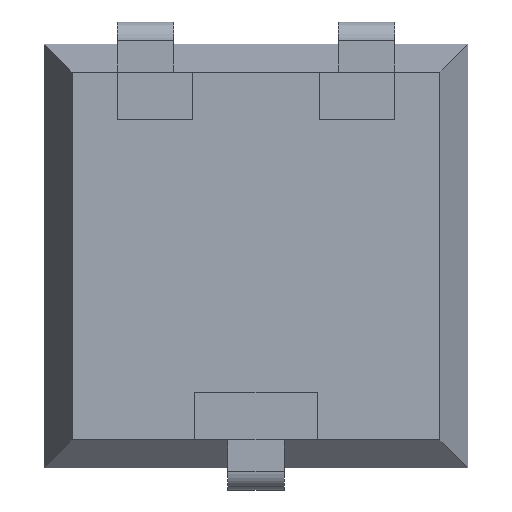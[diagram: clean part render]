
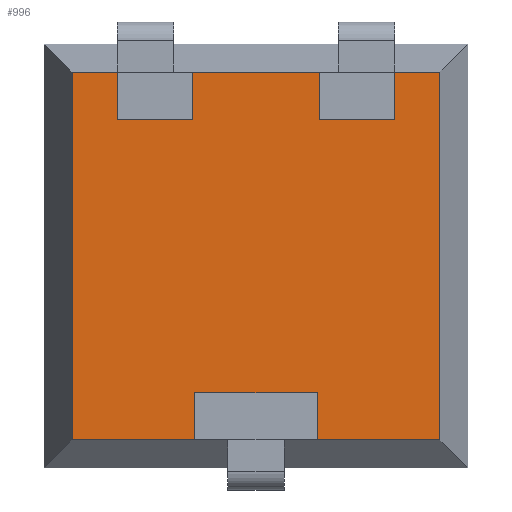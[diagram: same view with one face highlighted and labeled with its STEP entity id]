
A CAD part, front view. The second image highlights one B-rep face of the part: STEP entity #996.
In plain terms, the highlighted planar face has unit normal (0, -1, 0).
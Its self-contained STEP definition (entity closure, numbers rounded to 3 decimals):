
#54 = EDGE_CURVE ( 'NONE', #2265, #3279, #2867, .T. ) ;
#109 = CARTESIAN_POINT ( 'NONE',  ( -0.65, 0., -1.453 ) ) ;
#119 = CARTESIAN_POINT ( 'NONE',  ( 1.475, 0., 0. ) ) ;
#126 = CARTESIAN_POINT ( 'NONE',  ( -0.675, 0., 1.453 ) ) ;
#161 = VECTOR ( 'NONE', #973, 1000. ) ;
#196 = LINE ( 'NONE', #688, #854 ) ;
#263 = DIRECTION ( 'NONE',  ( 1., 0., 0. ) ) ;
#346 = LINE ( 'NONE', #1311, #1874 ) ;
#376 = VECTOR ( 'NONE', #584, 1000. ) ;
#387 = ORIENTED_EDGE ( 'NONE', *, *, #460, .T. ) ;
#460 = EDGE_CURVE ( 'NONE', #3146, #3234, #2729, .T. ) ;
#472 = VERTEX_POINT ( 'NONE', #1737 ) ;
#569 = PLANE ( 'NONE',  #2424 ) ;
#570 = VERTEX_POINT ( 'NONE', #1877 ) ;
#584 = DIRECTION ( 'NONE',  ( 0., 0., -1. ) ) ;
#605 = CARTESIAN_POINT ( 'NONE',  ( 1.953, 0., -1.953 ) ) ;
#632 = LINE ( 'NONE', #2179, #3215 ) ;
#688 = CARTESIAN_POINT ( 'NONE',  ( 0., 0., -1.953 ) ) ;
#708 = VECTOR ( 'NONE', #2224, 1000. ) ;
#727 = CARTESIAN_POINT ( 'NONE',  ( -1.953, 0., 1.953 ) ) ;
#728 = CARTESIAN_POINT ( 'NONE',  ( -1.475, 0., 0. ) ) ;
#779 = ORIENTED_EDGE ( 'NONE', *, *, #2188, .F. ) ;
#817 = VERTEX_POINT ( 'NONE', #2045 ) ;
#828 = ORIENTED_EDGE ( 'NONE', *, *, #1702, .F. ) ;
#832 = CARTESIAN_POINT ( 'NONE',  ( -1.953, 0., 0. ) ) ;
#854 = VECTOR ( 'NONE', #2675, 1000. ) ;
#908 = VECTOR ( 'NONE', #263, 1000. ) ;
#919 = VERTEX_POINT ( 'NONE', #109 ) ;
#950 = ORIENTED_EDGE ( 'NONE', *, *, #3086, .F. ) ;
#954 = VECTOR ( 'NONE', #1249, 1000. ) ;
#958 = LINE ( 'NONE', #119, #161 ) ;
#973 = DIRECTION ( 'NONE',  ( 0., 0., 1. ) ) ;
#985 = DIRECTION ( 'NONE',  ( -1., 0., 0. ) ) ;
#996 = ADVANCED_FACE ( 'NONE', ( #1805 ), #569, .F. ) ;
#1001 = CARTESIAN_POINT ( 'NONE',  ( -0.675, 0., 0. ) ) ;
#1062 = DIRECTION ( 'NONE',  ( -1., 0., 0. ) ) ;
#1069 = CARTESIAN_POINT ( 'NONE',  ( 1.475, 0., 1.453 ) ) ;
#1143 = EDGE_CURVE ( 'NONE', #817, #2336, #2376, .T. ) ;
#1220 = ORIENTED_EDGE ( 'NONE', *, *, #54, .F. ) ;
#1228 = VERTEX_POINT ( 'NONE', #1069 ) ;
#1249 = DIRECTION ( 'NONE',  ( 0., 0., 1. ) ) ;
#1266 = VECTOR ( 'NONE', #2768, 1000. ) ;
#1280 = DIRECTION ( 'NONE',  ( 0., 0., 1. ) ) ;
#1292 = DIRECTION ( 'NONE',  ( 0., 0., -1. ) ) ;
#1311 = CARTESIAN_POINT ( 'NONE',  ( 0., 0., 1.953 ) ) ;
#1314 = LINE ( 'NONE', #1351, #2173 ) ;
#1327 = VERTEX_POINT ( 'NONE', #126 ) ;
#1345 = ORIENTED_EDGE ( 'NONE', *, *, #3647, .T. ) ;
#1351 = CARTESIAN_POINT ( 'NONE',  ( 0., 0., -1.953 ) ) ;
#1380 = LINE ( 'NONE', #3556, #1511 ) ;
#1381 = CARTESIAN_POINT ( 'NONE',  ( 0., 0., -1.453 ) ) ;
#1457 = ORIENTED_EDGE ( 'NONE', *, *, #3357, .F. ) ;
#1468 = VERTEX_POINT ( 'NONE', #3073 ) ;
#1511 = VECTOR ( 'NONE', #1062, 1000. ) ;
#1520 = VECTOR ( 'NONE', #1725, 1000. ) ;
#1538 = ORIENTED_EDGE ( 'NONE', *, *, #3150, .T. ) ;
#1636 = LINE ( 'NONE', #1740, #908 ) ;
#1676 = CARTESIAN_POINT ( 'NONE',  ( -1.953, 0., -1.953 ) ) ;
#1693 = ORIENTED_EDGE ( 'NONE', *, *, #2444, .T. ) ;
#1702 = EDGE_CURVE ( 'NONE', #919, #1468, #632, .T. ) ;
#1725 = DIRECTION ( 'NONE',  ( 1., 0., 0. ) ) ;
#1729 = ORIENTED_EDGE ( 'NONE', *, *, #3599, .F. ) ;
#1733 = ORIENTED_EDGE ( 'NONE', *, *, #2552, .F. ) ;
#1737 = CARTESIAN_POINT ( 'NONE',  ( 0.65, 0., -1.953 ) ) ;
#1740 = CARTESIAN_POINT ( 'NONE',  ( 0., 0., 1.453 ) ) ;
#1781 = CARTESIAN_POINT ( 'NONE',  ( -1.475, 0., 1.453 ) ) ;
#1805 = FACE_OUTER_BOUND ( 'NONE', #3353, .T. ) ;
#1838 = CARTESIAN_POINT ( 'NONE',  ( 0.675, 0., 1.453 ) ) ;
#1847 = CARTESIAN_POINT ( 'NONE',  ( -1.475, 0., 1.953 ) ) ;
#1863 = ORIENTED_EDGE ( 'NONE', *, *, #3443, .F. ) ;
#1874 = VECTOR ( 'NONE', #2678, 1000. ) ;
#1877 = CARTESIAN_POINT ( 'NONE',  ( 0.675, 0., 1.953 ) ) ;
#1974 = VECTOR ( 'NONE', #985, 1000. ) ;
#2045 = CARTESIAN_POINT ( 'NONE',  ( 1.953, 0., 1.953 ) ) ;
#2050 = EDGE_CURVE ( 'NONE', #2358, #1228, #2986, .T. ) ;
#2120 = VERTEX_POINT ( 'NONE', #2890 ) ;
#2149 = ORIENTED_EDGE ( 'NONE', *, *, #2050, .F. ) ;
#2173 = VECTOR ( 'NONE', #3362, 1000. ) ;
#2179 = CARTESIAN_POINT ( 'NONE',  ( -0.65, 0., 0. ) ) ;
#2188 = EDGE_CURVE ( 'NONE', #472, #3312, #2663, .T. ) ;
#2213 = ORIENTED_EDGE ( 'NONE', *, *, #1143, .T. ) ;
#2224 = DIRECTION ( 'NONE',  ( -1., 0., 0. ) ) ;
#2265 = VERTEX_POINT ( 'NONE', #1847 ) ;
#2336 = VERTEX_POINT ( 'NONE', #3522 ) ;
#2358 = VERTEX_POINT ( 'NONE', #1838 ) ;
#2376 = LINE ( 'NONE', #2392, #1974 ) ;
#2392 = CARTESIAN_POINT ( 'NONE',  ( 0., 0., 1.953 ) ) ;
#2424 = AXIS2_PLACEMENT_3D ( 'NONE', #2543, #3648, #2579 ) ;
#2442 = CARTESIAN_POINT ( 'NONE',  ( 0.65, 0., 0. ) ) ;
#2444 = EDGE_CURVE ( 'NONE', #2265, #3146, #1380, .T. ) ;
#2475 = LINE ( 'NONE', #3499, #954 ) ;
#2481 = VECTOR ( 'NONE', #3104, 1000. ) ;
#2543 = CARTESIAN_POINT ( 'NONE',  ( 0., 0., 0. ) ) ;
#2552 = EDGE_CURVE ( 'NONE', #3312, #919, #2981, .T. ) ;
#2572 = LINE ( 'NONE', #2800, #2481 ) ;
#2579 = DIRECTION ( 'NONE',  ( 0., 0., 1. ) ) ;
#2663 = LINE ( 'NONE', #2442, #3497 ) ;
#2675 = DIRECTION ( 'NONE',  ( 1., 0., 0. ) ) ;
#2678 = DIRECTION ( 'NONE',  ( -1., 0., 0. ) ) ;
#2688 = VERTEX_POINT ( 'NONE', #605 ) ;
#2706 = ORIENTED_EDGE ( 'NONE', *, *, #3635, .T. ) ;
#2729 = LINE ( 'NONE', #832, #376 ) ;
#2768 = DIRECTION ( 'NONE',  ( 0., 0., -1. ) ) ;
#2800 = CARTESIAN_POINT ( 'NONE',  ( 0.675, 0., 0. ) ) ;
#2867 = LINE ( 'NONE', #728, #1266 ) ;
#2890 = CARTESIAN_POINT ( 'NONE',  ( -0.675, 0., 1.953 ) ) ;
#2981 = LINE ( 'NONE', #1381, #708 ) ;
#2986 = LINE ( 'NONE', #3380, #1520 ) ;
#3006 = EDGE_CURVE ( 'NONE', #570, #2120, #346, .T. ) ;
#3034 = DIRECTION ( 'NONE',  ( 0., 0., 1. ) ) ;
#3053 = LINE ( 'NONE', #1001, #3302 ) ;
#3073 = CARTESIAN_POINT ( 'NONE',  ( -0.65, 0., -1.953 ) ) ;
#3086 = EDGE_CURVE ( 'NONE', #570, #2358, #2572, .T. ) ;
#3104 = DIRECTION ( 'NONE',  ( 0., 0., -1. ) ) ;
#3114 = ORIENTED_EDGE ( 'NONE', *, *, #3006, .T. ) ;
#3146 = VERTEX_POINT ( 'NONE', #727 ) ;
#3150 = EDGE_CURVE ( 'NONE', #3234, #1468, #1314, .T. ) ;
#3215 = VECTOR ( 'NONE', #1292, 1000. ) ;
#3234 = VERTEX_POINT ( 'NONE', #1676 ) ;
#3279 = VERTEX_POINT ( 'NONE', #1781 ) ;
#3302 = VECTOR ( 'NONE', #1280, 1000. ) ;
#3312 = VERTEX_POINT ( 'NONE', #3470 ) ;
#3353 = EDGE_LOOP ( 'NONE', ( #828, #1733, #779, #1345, #2706, #2213, #1457, #2149, #950, #3114, #1729, #1863, #1220, #1693, #387, #1538 ) ) ;
#3357 = EDGE_CURVE ( 'NONE', #1228, #2336, #958, .T. ) ;
#3362 = DIRECTION ( 'NONE',  ( 1., 0., 0. ) ) ;
#3380 = CARTESIAN_POINT ( 'NONE',  ( 0., 0., 1.453 ) ) ;
#3443 = EDGE_CURVE ( 'NONE', #3279, #1327, #1636, .T. ) ;
#3470 = CARTESIAN_POINT ( 'NONE',  ( 0.65, 0., -1.453 ) ) ;
#3497 = VECTOR ( 'NONE', #3034, 1000. ) ;
#3499 = CARTESIAN_POINT ( 'NONE',  ( 1.953, 0., 0. ) ) ;
#3522 = CARTESIAN_POINT ( 'NONE',  ( 1.475, 0., 1.953 ) ) ;
#3556 = CARTESIAN_POINT ( 'NONE',  ( 0., 0., 1.953 ) ) ;
#3599 = EDGE_CURVE ( 'NONE', #1327, #2120, #3053, .T. ) ;
#3635 = EDGE_CURVE ( 'NONE', #2688, #817, #2475, .T. ) ;
#3647 = EDGE_CURVE ( 'NONE', #472, #2688, #196, .T. ) ;
#3648 = DIRECTION ( 'NONE',  ( 0., 1., 0. ) ) ;
